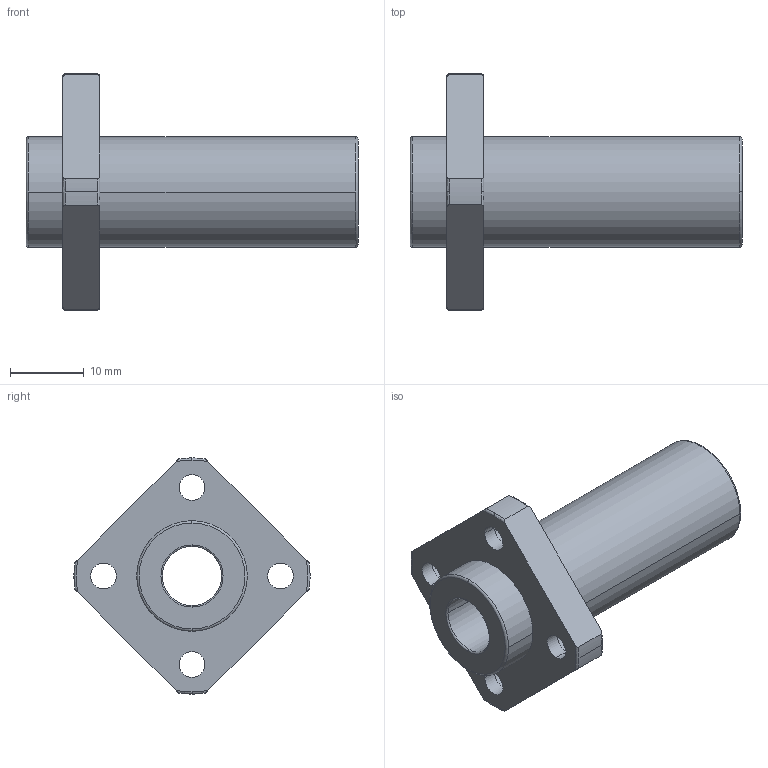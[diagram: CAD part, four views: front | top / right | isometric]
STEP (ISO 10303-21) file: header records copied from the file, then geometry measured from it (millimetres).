
FILE_DESCRIPTION(('FreeCAD Model'),'2;1');
FILE_NAME('Open CASCADE Shape Model','2021-05-03T14:31:14',('Author'),( ''),'Open CASCADE STEP processor 7.5','FreeCAD','Unknown');
FILE_SCHEMA(('AUTOMOTIVE_DESIGN { 1 0 10303 214 1 1 1 1 }'));
Length unit declared in the file: millimetre
Products named in the file (1): linear_lmkp8luu
Bounding box: 45 x 32 x 32 mm (x, y, z)
Volume: 7446.3 mm3; surface area: 4831.2 mm2
Topology: 1 solids, 1 shells, 60 faces, 160 edges, 108 vertices
Faces by surface type: cylinder 28, torus 20, plane 12
Entity records: 5776 total; most frequent: CARTESIAN_POINT 2573, DIRECTION 620, ORIENTED_EDGE 320, PCURVE 320, DEFINITIONAL_REPRESENTATION 320, LINE 268, VECTOR 268, AXIS2_PLACEMENT_3D 165
